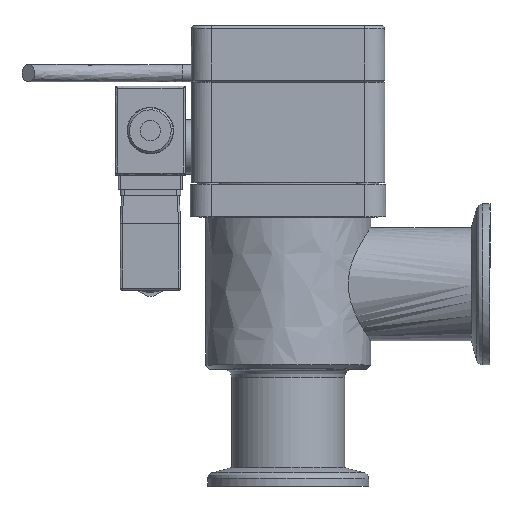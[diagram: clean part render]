
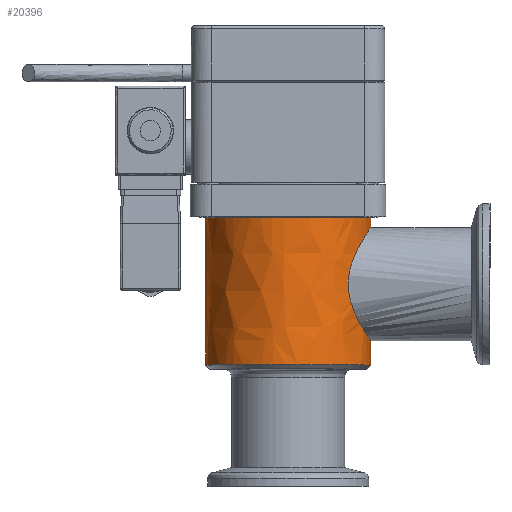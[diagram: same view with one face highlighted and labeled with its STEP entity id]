
A CAD part, top view. The second image highlights one B-rep face of the part: STEP entity #20396.
In plain terms, the highlighted free-form (B-spline) face has degree [2, 1] with [7, 2] control points.
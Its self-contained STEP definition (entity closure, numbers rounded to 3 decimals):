
#19809=CARTESIAN_POINT('V30',(30.,20.45,
   0.0));
#19810=VERTEX_POINT('V30',#19809);
#19818=CARTESIAN_POINT('E52',(30.,20.45,
   0.));
#19819=CARTESIAN_POINT('E52',(30.,20.45,
   35.42));
#19820=CARTESIAN_POINT('E52',(30.,-10.225,
   17.71));
#19821=CARTESIAN_POINT('E52',(30.,-40.9,
   0.));
#19822=CARTESIAN_POINT('E52',(30.,-10.225,
   -17.71));
#19823=CARTESIAN_POINT('E52',(30.,20.45,
   -35.42));
#19824=CARTESIAN_POINT('E52',(30.,20.45,
   0.));
#19832=(BOUNDED_CURVE()B_SPLINE_CURVE(2,(#19818,#19819,#19820,
   #19821,#19822,#19823,#19824),.CIRCULAR_ARC.,.T.,.U.)
   B_SPLINE_CURVE_WITH_KNOTS((3,2,2,3),(2.0,30.805,
   59.609,88.414),.UNSPECIFIED.)CURVE()
   GEOMETRIC_REPRESENTATION_ITEM()RATIONAL_B_SPLINE_CURVE((1.0,
   0.5,1.0,0.5,1.0,0.5,1.0)
   )REPRESENTATION_ITEM('E52'));
#19833=EDGE_CURVE('E52',#19810,#19810,#19832,.T.);
#20274=CARTESIAN_POINT('V23',(66.5,20.45,
   0.0));
#20275=VERTEX_POINT('V23',#20274);
#20283=CARTESIAN_POINT('E36',(66.5,20.45,
   0.0));
#20284=CARTESIAN_POINT('E36',(66.5,20.45,
   -35.42));
#20285=CARTESIAN_POINT('E36',(66.5,-10.225,
   -17.71));
#20286=CARTESIAN_POINT('E36',(66.5,-40.9,
   0.));
#20287=CARTESIAN_POINT('E36',(66.5,-10.225,
   17.71));
#20288=CARTESIAN_POINT('E36',(66.5,20.45,
   35.42));
#20289=CARTESIAN_POINT('E36',(66.5,20.45,
   0.0));
#20297=(BOUNDED_CURVE()B_SPLINE_CURVE(2,(#20283,#20284,#20285,
   #20286,#20287,#20288,#20289),.CIRCULAR_ARC.,.T.,.U.)
   B_SPLINE_CURVE_WITH_KNOTS((3,2,2,3),(0.0,251.685,
   503.37,755.055),.UNSPECIFIED.)CURVE()
   GEOMETRIC_REPRESENTATION_ITEM()RATIONAL_B_SPLINE_CURVE((1.0,
   0.5,1.0,0.5,1.0,0.5,1.0)
   )REPRESENTATION_ITEM('E36'));
#20298=EDGE_CURVE('E36',#20275,#20275,#20297,.T.);
#20303=CARTESIAN_POINT('F23',(29.,20.45,
   0.0));
#20304=CARTESIAN_POINT('F23',(29.,20.45,
   35.42));
#20305=CARTESIAN_POINT('F23',(29.,-10.225,
   17.71));
#20306=CARTESIAN_POINT('F23',(29.,-40.9,
   0.));
#20307=CARTESIAN_POINT('F23',(29.,-10.225,
   -17.71));
#20308=CARTESIAN_POINT('F23',(29.,20.45,
   -35.42));
#20309=CARTESIAN_POINT('F23',(29.,20.45,
   0.0));
#20310=CARTESIAN_POINT('F23',(66.5,20.45,
   0.0));
#20311=CARTESIAN_POINT('F23',(66.5,20.45,
   35.42));
#20312=CARTESIAN_POINT('F23',(66.5,-10.225,
   17.71));
#20313=CARTESIAN_POINT('F23',(66.5,-40.9,
   0.));
#20314=CARTESIAN_POINT('F23',(66.5,-10.225,
   -17.71));
#20315=CARTESIAN_POINT('F23',(66.5,20.45,
   -35.42));
#20316=CARTESIAN_POINT('F23',(66.5,20.45,
   0.0));
#20324=(BOUNDED_SURFACE()B_SPLINE_SURFACE(2,1,((#20303,#20310),(
   #20304,#20311),(#20305,#20312),(#20306,#20313),(#20307,
   #20314),(#20308,#20315),(#20309,#20316)),.CYLINDRICAL_SURF.,
   .T.,.F.,.U.)B_SPLINE_SURFACE_WITH_KNOTS((3,2,2,3),(2,2),(0.0,
   1.889,3.778,5.667),(0.0,1.0),
   .UNSPECIFIED.)GEOMETRIC_REPRESENTATION_ITEM()
   RATIONAL_B_SPLINE_SURFACE(((1.0,1.0),(0.5,
   0.5),(1.0,1.0),(0.5,
   0.5),(1.0,1.0),(0.5,
   0.5),(1.0,1.0)))REPRESENTATION_ITEM('F23')SURFACE(
   ));
#20325=ORIENTED_EDGE('E52',*,*,#19833,.F.);
#20326=CARTESIAN_POINT('V28',(37.5,20.45,
   0.0));
#20327=VERTEX_POINT('V28',#20326);
#20328=CARTESIAN_POINT('E45',(37.5,20.45,
   0.0));
#20329=CARTESIAN_POINT('E45',(30.,20.45,
   0.0));
#20330=B_SPLINE_CURVE_WITH_KNOTS('E45',1,(#20328,#20329),
   .POLYLINE_FORM.,.F.,.U.,(2,2),(0.773,
   0.973),.UNSPECIFIED.);
#20331=EDGE_CURVE('E45',#20327,#19810,#20330,.T.);
#20332=ORIENTED_EDGE('E45',*,*,#20331,.F.);
#20333=CARTESIAN_POINT('V27',(50.,16.185,
   12.5));
#20334=VERTEX_POINT('V27',#20333);
#20335=CARTESIAN_POINT('E44',(50.,16.185,
   12.5));
#20336=CARTESIAN_POINT('E44',(49.162,16.185,
   12.5));
#20337=CARTESIAN_POINT('E44',(48.334,16.251,
   12.416));
#20338=CARTESIAN_POINT('E44',(45.225,16.721,
   11.787));
#20339=CARTESIAN_POINT('E44',(43.155,17.512,
   10.697));
#20340=CARTESIAN_POINT('E44',(39.955,18.999,
   7.736));
#20341=CARTESIAN_POINT('E44',(38.618,19.779,
   5.756));
#20342=CARTESIAN_POINT('E44',(37.651,20.356,
   2.236));
#20343=CARTESIAN_POINT('E44',(37.5,20.45,
   1.125));
#20344=CARTESIAN_POINT('E44',(37.5,20.45,
   0.0));
#20345=B_SPLINE_CURVE_WITH_KNOTS('E44',3,(#20335,#20336,#20337,
   #20338,#20339,#20340,#20341,#20342,#20343,#20344),.UNSPECIFIED.,
   .F.,.U.,(4,2,2,2,4),(0.0,0.13,0.499,
   0.847,1.0),.UNSPECIFIED.);
#20346=EDGE_CURVE('E44',#20334,#20327,#20345,.T.);
#20347=ORIENTED_EDGE('E44',*,*,#20346,.F.);
#20348=CARTESIAN_POINT('V29',(62.5,20.45,
   0.0));
#20349=VERTEX_POINT('V29',#20348);
#20350=CARTESIAN_POINT('E48',(62.5,20.45,
   0.0));
#20351=CARTESIAN_POINT('E48',(62.5,20.45,
   1.465));
#20352=CARTESIAN_POINT('E48',(62.244,20.291,
   2.901));
#20353=CARTESIAN_POINT('E48',(61.053,19.591,
   6.188));
#20354=CARTESIAN_POINT('E48',(59.938,18.958,
   7.789));
#20355=CARTESIAN_POINT('E48',(57.026,17.586,
   10.581));
#20356=CARTESIAN_POINT('E48',(54.979,16.785,
   11.699));
#20357=CARTESIAN_POINT('E48',(51.823,16.264,
   12.4));
#20358=CARTESIAN_POINT('E48',(50.918,16.185,
   12.5));
#20359=CARTESIAN_POINT('E48',(50.,16.185,
   12.5));
#20360=B_SPLINE_CURVE_WITH_KNOTS('E48',3,(#20350,#20351,#20352,
   #20353,#20354,#20355,#20356,#20357,#20358,#20359),.UNSPECIFIED.,
   .F.,.U.,(4,2,2,2,4),(0.0,0.203,0.493,
   0.858,1.0),.UNSPECIFIED.);
#20361=EDGE_CURVE('E48',#20349,#20334,#20360,.T.);
#20362=ORIENTED_EDGE('E48',*,*,#20361,.F.);
#20363=CARTESIAN_POINT('E47',(66.5,20.45,
   0.0));
#20364=CARTESIAN_POINT('E47',(62.5,20.45,
   0.0));
#20365=B_SPLINE_CURVE_WITH_KNOTS('E47',1,(#20363,#20364),
   .POLYLINE_FORM.,.F.,.U.,(2,2),(0.0,0.107),
   .UNSPECIFIED.);
#20366=EDGE_CURVE('E47',#20275,#20349,#20365,.T.);
#20367=ORIENTED_EDGE('E47',*,*,#20366,.F.);
#20368=ORIENTED_EDGE('F20',*,*,#20298,.F.);
#20369=ORIENTED_EDGE('E47',*,*,#20366,.T.);
#20370=CARTESIAN_POINT('E46',(37.5,20.45,
   0.0));
#20371=CARTESIAN_POINT('E46',(37.5,20.45,
   -0.79));
#20372=CARTESIAN_POINT('E46',(37.575,20.404,
   -1.574));
#20373=CARTESIAN_POINT('E46',(37.918,20.197,
   -3.37));
#20374=CARTESIAN_POINT('E46',(38.239,20.004,
   -4.354));
#20375=CARTESIAN_POINT('E46',(39.489,19.287,
   -7.038));
#20376=CARTESIAN_POINT('E46',(40.66,18.649,
   -8.485));
#20377=CARTESIAN_POINT('E46',(43.701,17.3,
   -11.025));
#20378=CARTESIAN_POINT('E46',(45.861,16.532,
   -12.045));
#20379=CARTESIAN_POINT('E46',(49.334,16.165,
   -12.528));
#20380=CARTESIAN_POINT('E46',(50.398,16.155,
   -12.539));
#20381=CARTESIAN_POINT('E46',(52.53,16.347,
   -12.289));
#20382=CARTESIAN_POINT('E46',(53.517,16.541,
   -12.032));
#20383=CARTESIAN_POINT('E46',(56.129,17.226,
   -11.049));
#20384=CARTESIAN_POINT('E46',(57.709,17.891,
   -10.018));
#20385=CARTESIAN_POINT('E46',(60.33,19.166,
   -7.291));
#20386=CARTESIAN_POINT('E46',(61.456,19.823,
   -5.488));
#20387=CARTESIAN_POINT('E46',(62.349,20.356,
   -2.236));
#20388=CARTESIAN_POINT('E46',(62.5,20.45,
   -1.125));
#20389=CARTESIAN_POINT('E46',(62.5,20.45,
   0.0));
#20390=B_SPLINE_CURVE_WITH_KNOTS('E46',3,(#20370,#20371,#20372,
   #20373,#20374,#20375,#20376,#20377,#20378,#20379,#20380,#20381,
   #20382,#20383,#20384,#20385,#20386,#20387,#20388,#20389),
   .UNSPECIFIED.,.F.,.U.,(4,2,2,2,2,2,2,2,2,4),(0.0,
   0.055,0.129,0.269,
   0.45,0.529,0.609,
   0.765,0.922,1.0),.UNSPECIFIED.);
#20391=EDGE_CURVE('E46',#20327,#20349,#20390,.T.);
#20392=ORIENTED_EDGE('E46',*,*,#20391,.F.);
#20393=ORIENTED_EDGE('E45',*,*,#20331,.T.);
#20394=EDGE_LOOP('F23',(#20325,#20332,#20347,#20362,#20367,#20368,
   #20369,#20392,#20393));
#20395=FACE_OUTER_BOUND('F23',#20394,.F.);
#20396=ADVANCED_FACE('F23',(#20395),#20324,.T.);
